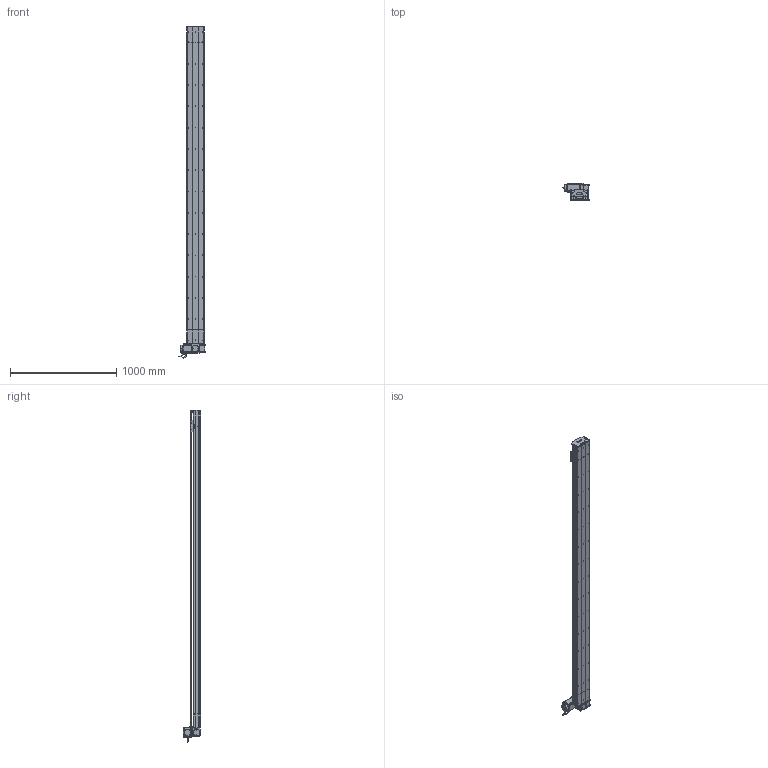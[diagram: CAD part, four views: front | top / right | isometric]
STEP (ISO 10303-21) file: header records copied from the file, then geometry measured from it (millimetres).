
FILE_DESCRIPTION (( 'STEP AP214' ), '1' );
FILE_NAME ('D17 TBN LT S2700.STEP', '2010-06-30T13:14:35', ( 'Conseil Régional Haute-Normandie' ), ( 'Conseil Régional Haute-Normandie' ), 'SwSTEP 2.0', 'SolidWorks 2010', '' );
FILE_SCHEMA (( 'AUTOMOTIVE_DESIGN' ));
Length unit declared in the file: millimetre
Products named in the file (40): Head LT D17B_Default; couvercle D17B head_Default; corpl head D17 _Default; plaque de  bout head D17B LT_Default; Couroie tail D17B_Default; plaque de  bout tail D17B_Default; Rail D17B; tete d''axe poulie D17B; vis M5 L16_Default; Plaque racord D17_Default; vis M5 L70_Default; Conecteur_Default; corp tail D17B+100_Default; Tail D17B+100_Default; Vis M5 L16-2_Default; Conecteur2_Default; codeur 90BLDC125-640; poulie tail_Default; corps 90BLDC125A-640; avant 90BLDC125A-640; cache D17_Default; Arbre+rail head D17B; Renvoi LT_Default; couroie head D17_Default; Moteur motionking 90BLDC125A-640; cache arbre D17_Default; poulie head_Default; vis M5 L5_Default; vis M5 L25_Default; vis M5 L12_Default; vis M5 L8 90°_Default; chariot D17 TBN; guide D17; Chariot D17 TBN; couvercle D17B_Default; course 2700 D17B_Default; D17 TBN LT S2700; couvercle D17B course L2700_Default; corp D17B 2700_Default; Couroie+ rail D17 Course 2700 
Assembly tree (66 placements, depth 4):
  D17 TBN LT S2700
    chariot D17 TBN
      guide D17  x2
      Chariot D17 TBN
    Tail D17B+100_Default
      Couroie tail D17B_Default
      vis M5 L12_Default  x4
      tete d''axe poulie D17B
      couvercle D17B_Default
      vis M5 L25_Default  x2
      poulie tail_Default
      Rail D17B
      vis M5 L8 90°_Default  x2
      corp tail D17B+100_Default
      plaque de  bout tail D17B_Default
    course 2700 D17B_Default
      corp D17B 2700_Default
      Couroie+ rail D17 Course 2700 
      couvercle D17B course L2700_Default
    Head LT D17B_Default
      Moteur motionking 90BLDC125A-640
        Conecteur2_Default
        Conecteur_Default
        codeur 90BLDC125-640
        corps 90BLDC125A-640
        avant 90BLDC125A-640
      Arbre+rail head D17B
      Vis M5 L16-2_Default  x4
      vis M5 L12_Default  x8
      couroie head D17_Default
      Renvoi LT_Default
      vis M5 L16_Default  x2
      vis M5 L25_Default  x2
      vis M5 L5_Default  x4
      corpl head D17 _Default
      cache D17_Default  x2
      poulie head_Default
      Plaque racord D17_Default
      plaque de  bout head D17B LT_Default
      vis M5 L70_Default  x4
      cache arbre D17_Default
      couvercle D17B head_Default
Bounding box: 245.2 x 166.15 x 3117.95 mm (x, y, z)
Volume: 17765410.9 mm3; surface area: 5175855.7 mm2
Topology: 89 solids, 89 shells, 2643 faces, 6799 edges, 4382 vertices
Faces by surface type: plane 1537, cylinder 809, bspline 136, cone 80, torus 77, sphere 4
Entity records: 86109 total; most frequent: CARTESIAN_POINT 25517, ORIENTED_EDGE 10770, DIRECTION 10158, EDGE_CURVE 5385, VERTEX_POINT 3526, LINE 3524, VECTOR 3524, AXIS2_PLACEMENT_3D 3317
